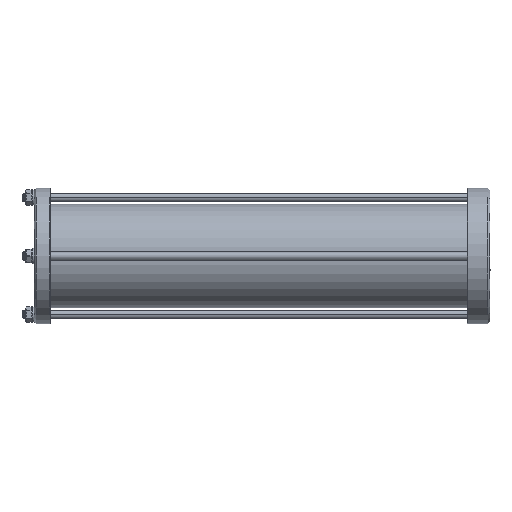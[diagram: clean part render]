
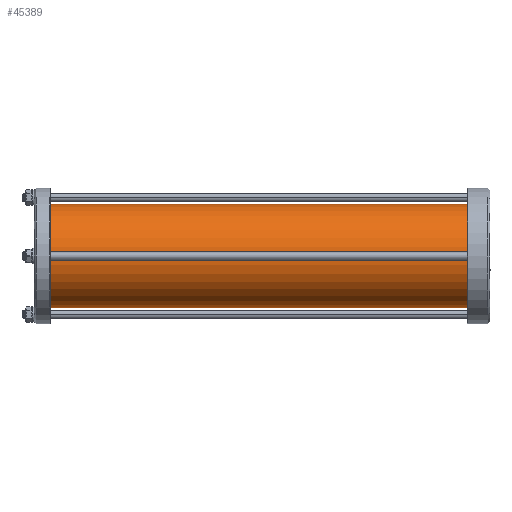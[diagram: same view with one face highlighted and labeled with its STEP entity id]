
A CAD part, left-side view. The second image highlights one B-rep face of the part: STEP entity #45389.
In plain terms, the highlighted cylindrical face has radius 38.5 mm (diameter 77 mm), a partial arc.
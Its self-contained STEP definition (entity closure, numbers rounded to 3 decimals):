
#118 = DIRECTION ( 'NONE',  ( 0., 1., 0. ) ) ;
#449 = VERTEX_POINT ( 'NONE', #44397 ) ;
#5928 = ORIENTED_EDGE ( 'NONE', *, *, #21615, .T. ) ;
#5933 = FACE_OUTER_BOUND ( 'NONE', #16396, .T. ) ;
#6832 = EDGE_CURVE ( 'NONE', #47007, #11979, #19467, .T. ) ;
#6859 = DIRECTION ( 'NONE',  ( 0., -1., 0. ) ) ;
#7043 = VECTOR ( 'NONE', #6859, 1000. ) ;
#11039 = CARTESIAN_POINT ( 'NONE',  ( 40.045, 341.458, 140.117 ) ) ;
#11165 = EDGE_CURVE ( 'NONE', #11979, #449, #27152, .T. ) ;
#11979 = VERTEX_POINT ( 'NONE', #48503 ) ;
#13546 = VERTEX_POINT ( 'NONE', #31012 ) ;
#16396 = EDGE_LOOP ( 'NONE', ( #28350, #27869, #5928, #51046 ) ) ;
#16665 = EDGE_CURVE ( 'NONE', #13546, #449, #50726, .T. ) ;
#19467 = CIRCLE ( 'NONE', #22230, 38.5 ) ;
#21615 = EDGE_CURVE ( 'NONE', #47007, #13546, #52452, .T. ) ;
#22202 = CARTESIAN_POINT ( 'NONE',  ( 40.045, 341.458, 63.117 ) ) ;
#22230 = AXIS2_PLACEMENT_3D ( 'NONE', #25679, #118, #47003 ) ;
#25356 = DIRECTION ( 'NONE',  ( 0., -1., 0. ) ) ;
#25679 = CARTESIAN_POINT ( 'NONE',  ( 40.045, 341.458, 101.617 ) ) ;
#26846 = AXIS2_PLACEMENT_3D ( 'NONE', #37342, #54232, #40969 ) ;
#27152 = LINE ( 'NONE', #11039, #7043 ) ;
#27869 = ORIENTED_EDGE ( 'NONE', *, *, #6832, .F. ) ;
#28350 = ORIENTED_EDGE ( 'NONE', *, *, #11165, .F. ) ;
#31012 = CARTESIAN_POINT ( 'NONE',  ( 40.045, 23.458, 63.117 ) ) ;
#31391 = CARTESIAN_POINT ( 'NONE',  ( 40.045, 341.458, 63.117 ) ) ;
#32066 = CYLINDRICAL_SURFACE ( 'NONE', #48119, 38.5 ) ;
#37342 = CARTESIAN_POINT ( 'NONE',  ( 40.045, 23.458, 101.617 ) ) ;
#40969 = DIRECTION ( 'NONE',  ( 0., 0., 1. ) ) ;
#41505 = DIRECTION ( 'NONE',  ( 0., 0., -1. ) ) ;
#44397 = CARTESIAN_POINT ( 'NONE',  ( 40.045, 23.458, 140.117 ) ) ;
#45308 = VECTOR ( 'NONE', #47728, 1000. ) ;
#45389 = ADVANCED_FACE ( 'NONE', ( #5933 ), #32066, .T. ) ;
#46422 = CARTESIAN_POINT ( 'NONE',  ( 40.045, 341.458, 101.617 ) ) ;
#47003 = DIRECTION ( 'NONE',  ( 0., 0., 1. ) ) ;
#47007 = VERTEX_POINT ( 'NONE', #22202 ) ;
#47728 = DIRECTION ( 'NONE',  ( 0., -1., 0. ) ) ;
#48119 = AXIS2_PLACEMENT_3D ( 'NONE', #46422, #25356, #41505 ) ;
#48503 = CARTESIAN_POINT ( 'NONE',  ( 40.045, 341.458, 140.117 ) ) ;
#50726 = CIRCLE ( 'NONE', #26846, 38.5 ) ;
#51046 = ORIENTED_EDGE ( 'NONE', *, *, #16665, .T. ) ;
#52452 = LINE ( 'NONE', #31391, #45308 ) ;
#54232 = DIRECTION ( 'NONE',  ( 0., 1., 0. ) ) ;
